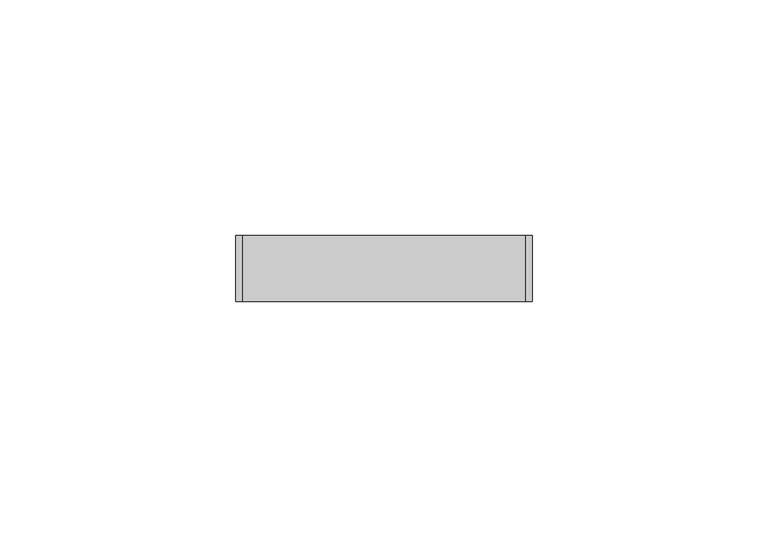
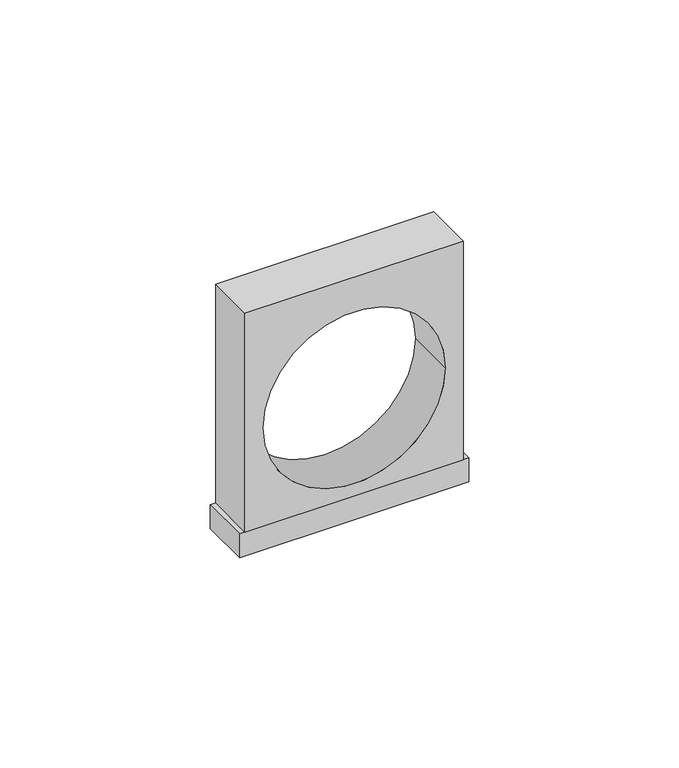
"""IFC4 building model written with IfcOpenShell, lengths in millimetres: cable carrier fitting geometry, КНС_ДержательРаздвижной_DKC : д.32 - 50мм."""

from ifc_helpers import new_model, si_unit, point, frame, frame_2d, origin, origin_with_axes, place, context, project, spatial, polyline, circle_curve, trimmed, segment, composite_curve, outline, extrude, source, transform, mapped, element, save


def cable_carrier_fitting_8727f749(model_context):
    return source(origin(), model_context, "Body", "SweptSolid", [
        extrude(outline(polyline([(70.5, 30.0), (70.5, -30.0), (7.0, -30.0), (7.0, 30.0), (70.5, 30.0)]), holes=[composite_curve([segment(trimmed(circle_curve(frame_2d((35.5, 0.0)), 25.0), [point((35.5, -25.0))], [point((35.5, 25.0))], True, "CARTESIAN"), True, "CONTINUOUS"), segment(trimmed(circle_curve(frame_2d((35.5, 0.0)), 25.0), [point((35.5, 25.0))], [point((35.5, -25.0))], True, "CARTESIAN"), True, "CONTINUOUS")], self_intersect=False)]), frame((0.0, -7.0, 0.0), z_axis=(0.0, 1.0, 0.0), x_axis=(0.0, 0.0, 1.0)), (0.0, 0.0, 1.0), 14.0),
        extrude(outline(polyline([(31.5, -7.0), (-31.5, -7.0), (-31.5, 7.0), (31.5, 7.0), (31.5, -7.0)])), origin_with_axes(), (0.0, 0.0, 1.0), 7.0),
    ])


if __name__ == "__main__":
    model = new_model("IFC4")
    model_context = context("Model", 3, world=origin())
    ifc_project = project(units=[si_unit("LENGTHUNIT", "METRE", prefix="MILLI")], contexts=[model_context])
    site = spatial("IfcSite", under=ifc_project)
    building = spatial("IfcBuilding", under=site)
    placement = place(None, origin())
    cable_carrier_fitting_shape = cable_carrier_fitting_8727f749(model_context)
    element("IfcCableCarrierFitting", 1, ObjectType="КНС_ДержательРаздвижной_DKC : д.32 - 50мм", at=placement, inside=building, context=model_context, shape_type="MappedRepresentation", body=[
        mapped(cable_carrier_fitting_shape, transform((0.0, 0.0, 0.0), x_axis=(1.0, 0.0, 0.0), y_axis=(0.0, 1.0, 0.0), z_axis=(0.0, 0.0, 1.0))),
    ])
    save(model, "model.ifc")
